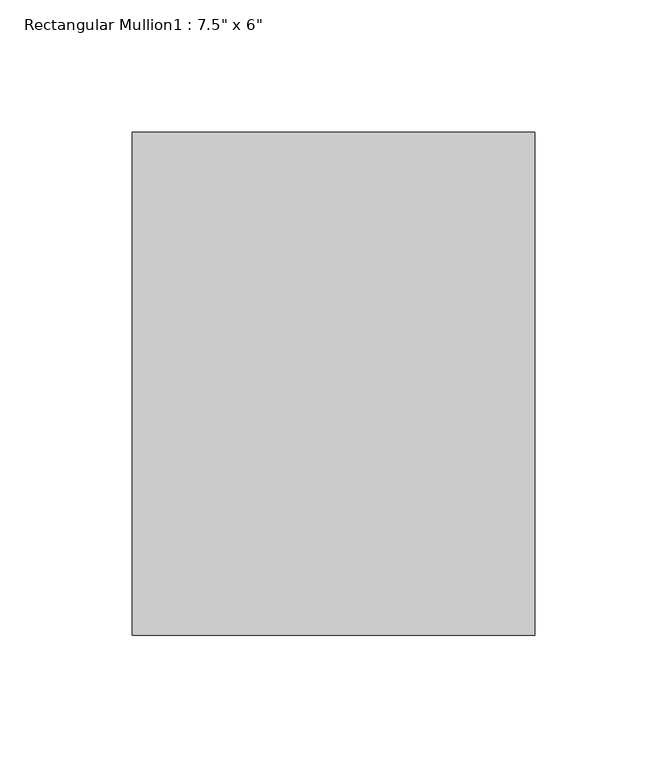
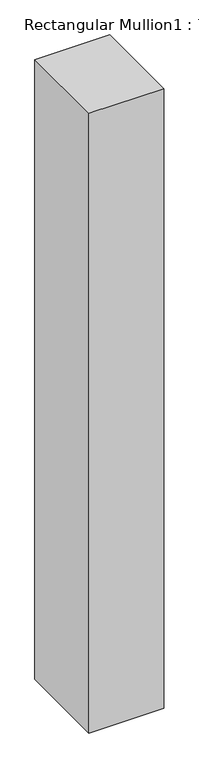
"""IFC4 building model written with IfcOpenShell, lengths in millimetres: member geometry."""

import ifcopenshell
import ifcopenshell.guid

model = None  # the IFC model being written
_history = None  # IfcOwnerHistory: only IFC2X3 demands one
_inside = {}  # id of a spatial element -> (the spatial element, [elements in it])
_under = {}  # id of a project, library or spatial element -> (it, [spatial elements below it])
_declared = {}  # id of a project -> (the project, [libraries it declares])
_typed = {}  # id of a type object -> (the type object, [elements of that type])
_made_of = {}  # id of a material, layer set ... -> (it, [elements and type objects made of it])


def new_model(schema):
    """Start an empty IFC model of exactly this schema.

    Asked for "IFC4X3", IfcOpenShell would pick the latest addendum, in which some entities
    have other attributes; the version numbers below select the first issue.
    IFC2X3 requires an IfcOwnerHistory on every rooted entity: one is made here for all.
    """
    global model, _history
    if schema == "IFC4X3":
        model = ifcopenshell.file(schema_version=(4, 3, 0, 0))
    else:
        model = ifcopenshell.file(schema=schema)
    _inside.clear()
    _under.clear()
    _declared.clear()
    _typed.clear()
    _made_of.clear()
    _history = None
    if model.schema == "IFC2X3":
        org = make("IfcOrganization", Name="unknown")
        user = make(
            "IfcPersonAndOrganization",
            ThePerson=make("IfcPerson", FamilyName="unknown"),
            TheOrganization=org,
        )
        app = make(
            "IfcApplication",
            ApplicationDeveloper=org,
            Version="unknown",
            ApplicationFullName="unknown",
            ApplicationIdentifier="unknown",
        )
        _history = make(
            "IfcOwnerHistory",
            OwningUser=user,
            OwningApplication=app,
            ChangeAction="ADDED",
            CreationDate=0,
        )
    return model


def make(cls, **values):
    """One entity of the class cls with the attributes given. An attribute that is None is left unset."""
    return model.create_entity(
        cls, **{name: value for name, value in values.items() if value is not None}
    )


def rooted(cls, **values):
    """An entity with a GlobalId (a new one), such as an element, a storey or a relation."""
    return make(cls, GlobalId=ifcopenshell.guid.new(), OwnerHistory=_history, **values)


def si_unit(unit_type, name, prefix=None):
    """IfcSIUnit, for example si_unit("LENGTHUNIT", "METRE", prefix="MILLI")."""
    return make("IfcSIUnit", UnitType=unit_type, Prefix=prefix, Name=name)


def assignment(units):
    """IfcUnitAssignment: the units of a project."""
    return None if units is None else make("IfcUnitAssignment", Units=units)


def point(xyz):
    """IfcCartesianPoint."""
    return None if xyz is None else make("IfcCartesianPoint", Coordinates=xyz)


def direction(xyz):
    """IfcDirection."""
    return None if xyz is None else make("IfcDirection", DirectionRatios=xyz)


def frame(location, z_axis=None, x_axis=None):
    """IfcAxis2Placement3D, a coordinate frame: its origin and axes. An axis left out is left unset."""
    return make(
        "IfcAxis2Placement3D",
        Location=point(location),
        Axis=direction(z_axis),
        RefDirection=direction(x_axis),
    )


def origin():
    """The frame at (0, 0, 0) with its axes left unset."""
    return frame((0.0, 0.0, 0.0))


def place(relative_to, where):
    """IfcLocalPlacement: puts the frame where relative to a parent placement (None: the world)."""
    return make(
        "IfcLocalPlacement", PlacementRelTo=relative_to, RelativePlacement=where
    )


def context(
    kind, dimensions, precision=None, world=None, true_north=None, identifier=None
):
    """IfcGeometricRepresentationContext, for example the 3D "Model" context."""
    return make(
        "IfcGeometricRepresentationContext",
        ContextIdentifier=identifier,
        ContextType=kind,
        CoordinateSpaceDimension=dimensions,
        Precision=precision,
        WorldCoordinateSystem=world,
        TrueNorth=true_north,
    )


def project(units=None, contexts=None):
    """IfcProject with its units and contexts."""
    return rooted(
        "IfcProject",
        Name="project",
        RepresentationContexts=contexts,
        UnitsInContext=assignment(units),
    )


def spatial(cls, under=None, at=None, **own):
    """A site, building, storey or space (cls), placed at a placement, below another one or the project."""
    s = rooted(cls, ObjectPlacement=at, **own)
    if under is not None:
        _under.setdefault(under.id(), (under, []))[1].append(s)
    return s


def polyline(points):
    """IfcPolyline through the points."""
    return make("IfcPolyline", Points=[point(p) for p in points])


def outline(outer, holes=None, kind="AREA"):
    """IfcArbitraryClosedProfileDef: a profile drawn as a closed curve; with holes, ...WithVoids."""
    if holes is None:
        return make("IfcArbitraryClosedProfileDef", ProfileType=kind, OuterCurve=outer)
    return make(
        "IfcArbitraryProfileDefWithVoids",
        ProfileType=kind,
        OuterCurve=outer,
        InnerCurves=holes,
    )


def extrude(swept, where, along, depth):
    """IfcExtrudedAreaSolid: the profile swept, set in the frame where, extruded along a direction by depth."""
    return make(
        "IfcExtrudedAreaSolid",
        SweptArea=swept,
        Position=where,
        ExtrudedDirection=direction(along),
        Depth=depth,
    )


def shape(context_of_items, identifier, shape_type, items):
    """IfcShapeRepresentation: the items that make up one representation, for example the "Body"."""
    return make(
        "IfcShapeRepresentation",
        ContextOfItems=context_of_items,
        RepresentationIdentifier=identifier,
        RepresentationType=shape_type,
        Items=items,
    )


def source(mapping_origin, context_of_items, identifier, shape_type, items):
    """IfcRepresentationMap: a shape defined once, which mapped items show again and again."""
    return make(
        "IfcRepresentationMap",
        MappingOrigin=mapping_origin,
        MappedRepresentation=shape(context_of_items, identifier, shape_type, items),
    )


def transform(
    local_origin,
    x_axis=None,
    y_axis=None,
    z_axis=None,
    scale=None,
    scale2=None,
    scale3=None,
    uniform=True,
):
    """IfcCartesianTransformationOperator3D, or its non-uniform kind. x_axis, y_axis, z_axis: its Axis1, 2, 3."""
    if uniform:
        return make(
            "IfcCartesianTransformationOperator3D",
            Axis1=direction(x_axis),
            Axis2=direction(y_axis),
            LocalOrigin=point(local_origin),
            Scale=scale,
            Axis3=direction(z_axis),
        )
    return make(
        "IfcCartesianTransformationOperator3DnonUniform",
        Axis1=direction(x_axis),
        Axis2=direction(y_axis),
        LocalOrigin=point(local_origin),
        Scale=scale,
        Axis3=direction(z_axis),
        Scale2=scale2,
        Scale3=scale3,
    )


def mapped(mapping_source, mapping_target):
    """IfcMappedItem: shows the shape of a source again, moved by a transform."""
    return make(
        "IfcMappedItem", MappingSource=mapping_source, MappingTarget=mapping_target
    )


def made_of(thing, what):
    """Note that an element or type object is made of a material, layer set ...; save() writes the relation."""
    if what is not None:
        _made_of.setdefault(what.id(), (what, []))[1].append(thing)
    return thing


def element(
    cls,
    number,
    at=None,
    inside=None,
    cuts=None,
    type_object=None,
    material=None,
    context=None,
    identifier="Body",
    shape_type=None,
    held_by="IfcProductDefinitionShape",
    body=None,
    shapes=None,
    **own,
):
    """One element of the class cls, such as IfcWall. Its Tag is "e" and its number.

    at: its placement. inside: the storey or other place that contains it. cuts: it is an
    opening in that element (IfcRelVoidsElement). A single representation is given by context,
    identifier, shape_type and body (its items); several are given by shapes. held_by: the class
    of the entity that holds the representations. save() writes the other relations.
    """
    e = rooted(cls, Tag="e%d" % number, ObjectPlacement=at, **own)
    if body is not None:
        shapes = [shape(context, identifier, shape_type, body)]
    if shapes is not None:
        e.Representation = make(held_by, Representations=shapes)
    if inside is not None:
        _inside.setdefault(inside.id(), (inside, []))[1].append(e)
    if cuts is not None:
        rooted(
            "IfcRelVoidsElement", RelatingBuildingElement=cuts, RelatedOpeningElement=e
        )
    if type_object is not None:
        _typed.setdefault(type_object.id(), (type_object, []))[1].append(e)
    return made_of(e, material)


def aggregate(whole, parts):
    """IfcRelAggregates: a whole, such as a stair, and the parts it consists of."""
    return rooted("IfcRelAggregates", RelatingObject=whole, RelatedObjects=parts)


def save(model, path):
    """Write the relations noted so far, then the file.

    IfcRelAggregates (storeys below a building ...), IfcRelContainedInSpatialStructure (elements
    in a storey), IfcRelDefinesByType, IfcRelAssociatesMaterial and IfcRelDeclares: one each for
    every whole, place, type object, material and project.
    """
    for whole, parts in _under.values():
        aggregate(whole, parts)
    for where, things in _inside.values():
        rooted(
            "IfcRelContainedInSpatialStructure",
            RelatedElements=things,
            RelatingStructure=where,
        )
    for kind, things in _typed.values():
        rooted("IfcRelDefinesByType", RelatedObjects=things, RelatingType=kind)
    for what, things in _made_of.values():
        rooted("IfcRelAssociatesMaterial", RelatedObjects=things, RelatingMaterial=what)
    for by, libraries in _declared.values():
        rooted("IfcRelDeclares", RelatingContext=by, RelatedDefinitions=libraries)
    model.write(path)


def member_dbd82cd8(model_context):
    return source(origin(), model_context, "Body", "SweptSolid", [
        extrude(outline(polyline([(76.2, -165.1), (-76.2, -165.1), (-76.2, 25.4), (76.2, 25.4), (76.2, -165.1)])), frame((0.0, 0.0, -1334.7351639), z_axis=(0.0, 0.0, 1.0), x_axis=(1.0, 0.0, 0.0)), (0.0, 0.0, 1.0), 1334.7351639),
    ])


if __name__ == "__main__":
    model = new_model("IFC4")
    model_context = context("Model", 3, world=origin())
    ifc_project = project(units=[si_unit("LENGTHUNIT", "METRE", prefix="MILLI")], contexts=[model_context])
    site = spatial("IfcSite", under=ifc_project)
    building = spatial("IfcBuilding", under=site)
    placement = place(None, origin())
    member_shape = member_dbd82cd8(model_context)
    element("IfcMember", 1, ObjectType="Rectangular Mullion1 : 7.5\" x 6\"", at=placement, inside=building, context=model_context, shape_type="MappedRepresentation", body=[
        mapped(member_shape, transform((0.0, 0.0, 0.0), x_axis=(1.0, 0.0, 0.0), y_axis=(0.0, 1.0, 0.0), z_axis=(0.0, 0.0, 1.0))),
    ])
    save(model, "model.ifc")
